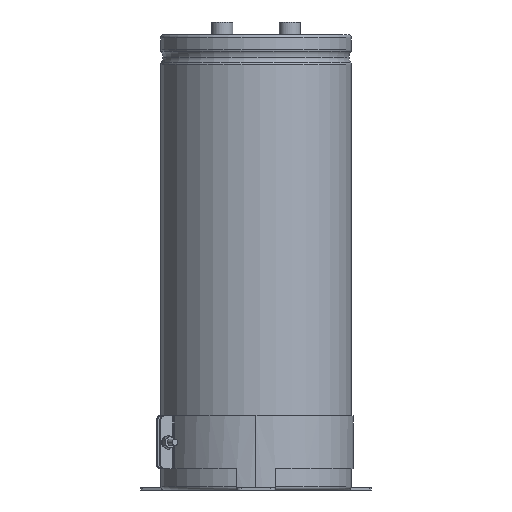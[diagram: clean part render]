
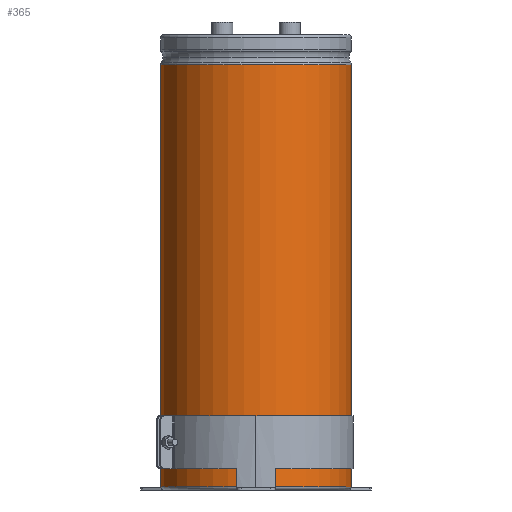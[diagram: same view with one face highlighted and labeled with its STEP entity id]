
A CAD part, left-side view. The second image highlights one B-rep face of the part: STEP entity #365.
In plain terms, the highlighted cylindrical face has radius 45 mm (diameter 90 mm), a partial arc.
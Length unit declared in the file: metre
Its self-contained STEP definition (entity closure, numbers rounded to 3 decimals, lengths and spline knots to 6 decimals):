
#365=ADVANCED_FACE('0:237',(#597),#598,.T.);
#597=FACE_OUTER_BOUND('',#1082,.T.);
#598=CYLINDRICAL_SURFACE('',#1083,0.045);
#1082=EDGE_LOOP('',(#2038,#2039,#2040,#2041));
#1083=AXIS2_PLACEMENT_3D('',#2042,#2043,#2044);
#2038=ORIENTED_EDGE('',*,*,#2995,.T.);
#2039=ORIENTED_EDGE('',*,*,#3004,.T.);
#2040=ORIENTED_EDGE('',*,*,#3006,.T.);
#2041=ORIENTED_EDGE('',*,*,#3007,.F.);
#2042=CARTESIAN_POINT('',(0.0,0.0,0.0));
#2043=DIRECTION('',(-0.0,0.0,1.0));
#2044=DIRECTION('',(0.0,1.0,0.0));
#2995=EDGE_CURVE('',#5626,#5634,#5635,.T.);
#3004=EDGE_CURVE('0:309',#5634,#5645,#5647,.T.);
#3006=EDGE_CURVE('0:312',#5645,#5649,#5650,.T.);
#3007=EDGE_CURVE('0:315',#5626,#5649,#5651,.T.);
#5626=VERTEX_POINT('',#6662);
#5634=VERTEX_POINT('',#6670);
#5635=LINE('',#6671,#6672);
#5645=VERTEX_POINT('',#6683);
#5647=CIRCLE('',#6685,0.045);
#5649=VERTEX_POINT('',#6687);
#5650=LINE('',#6688,#6689);
#5651=CIRCLE('',#6690,0.045);
#6662=CARTESIAN_POINT('',(0.,-0.045,0.0015));
#6670=CARTESIAN_POINT('',(0.,-0.045,0.2009));
#6671=CARTESIAN_POINT('',(0.,-0.045,0.1012));
#6672=VECTOR('',#8209,1.0);
#6683=CARTESIAN_POINT('',(-0.004,0.044822,0.2009));
#6685=AXIS2_PLACEMENT_3D('',#8226,#8227,#8228);
#6687=CARTESIAN_POINT('',(-0.004,0.044822,0.0015));
#6688=CARTESIAN_POINT('',(-0.004,0.044822,0.2009));
#6689=VECTOR('',#8229,0.001);
#6690=AXIS2_PLACEMENT_3D('',#8230,#8231,#8232);
#8209=DIRECTION('',(0.0,0.0,1.0));
#8226=CARTESIAN_POINT('',(0.0,0.0,0.2009));
#8227=DIRECTION('',(0.0,0.0,-1.0));
#8228=DIRECTION('',(0.0,1.0,0.0));
#8229=DIRECTION('',(0.0,0.0,-1.0));
#8230=CARTESIAN_POINT('',(0.0,0.0,0.0015));
#8231=DIRECTION('',(0.0,0.0,-1.0));
#8232=DIRECTION('',(0.0,1.0,0.0));
